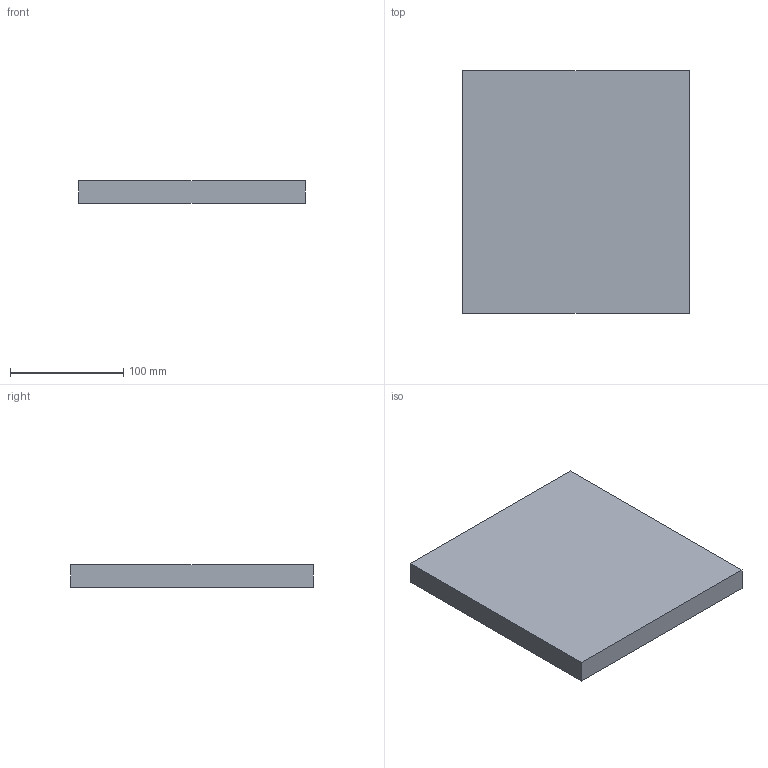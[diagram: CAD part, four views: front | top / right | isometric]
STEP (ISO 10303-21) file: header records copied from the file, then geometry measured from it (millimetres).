
FILE_DESCRIPTION(('Open CASCADE Model'),'2;1');
FILE_NAME('Open CASCADE Shape Model','2026-10-19T10:09:20',('Author'),( 'Open CASCADE'),'Open CASCADE STEP processor 8.0','Open CASCADE 8.0' ,'Unknown');
FILE_SCHEMA(('AUTOMOTIVE_DESIGN { 1 0 10303 214 1 1 1 1 }'));
Length unit declared in the file: millimetre
Products named in the file (1): T02_ASIENTO_SUPERIOR_200x214x20_P05 50
Bounding box: 200 x 214 x 20 mm (x, y, z)
Volume: 856000 mm3; surface area: 102160 mm2
Topology: 1 solids, 1 shells, 6 faces, 12 edges, 8 vertices
Faces by surface type: plane 6
Entity records: 322 total; most frequent: CARTESIAN_POINT 51, DIRECTION 50, LINE 36, VECTOR 36, ORIENTED_EDGE 24, PCURVE 24, DEFINITIONAL_REPRESENTATION 24, EDGE_CURVE 12
